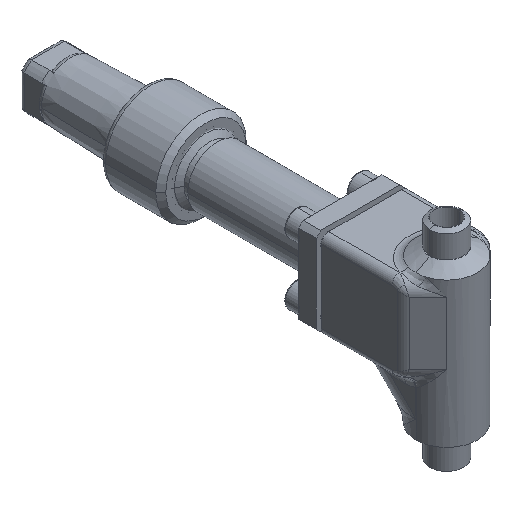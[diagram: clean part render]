
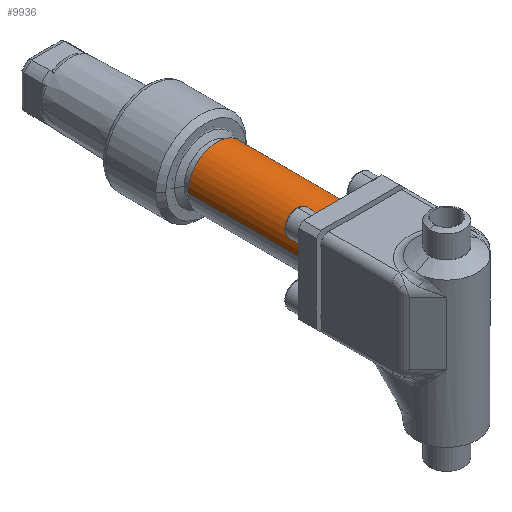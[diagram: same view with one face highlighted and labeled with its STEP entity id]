
A CAD part, isometric view. The second image highlights one B-rep face of the part: STEP entity #9936.
In plain terms, the highlighted cylindrical face has radius 11.75 mm (diameter 23.5 mm), a partial arc.
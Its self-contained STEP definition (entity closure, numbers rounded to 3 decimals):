
#16897 = LINE ( 'NONE', #16898, #16899 ) ;
#16898 = CARTESIAN_POINT ( 'NONE',  ( 11.75, 0., -57. ) ) ;
#16899 = VECTOR ( 'NONE', #16900, 1000. ) ;
#16900 = DIRECTION ( 'NONE',  ( 0., 0., 1. ) ) ;
#17016 = CARTESIAN_POINT ( 'NONE',  ( -11.75, 0., -7.2 ) ) ;
#800 = CARTESIAN_POINT ( 'NONE',  ( 11.75, 0., -57. ) ) ;
#825 = CIRCLE ( 'NONE', #826, 11.75 ) ;
#826 = AXIS2_PLACEMENT_3D ( 'NONE', #829, #830, #831 ) ;
#827 = EDGE_CURVE ( 'NONE', #2793, #9311, #14996, .T. ) ;
#829 = CARTESIAN_POINT ( 'NONE',  ( 0., 0., -57. ) ) ;
#830 = DIRECTION ( 'NONE',  ( 0., 0., -1. ) ) ;
#831 = DIRECTION ( 'NONE',  ( -1., 0., 0. ) ) ;
#1073 = EDGE_LOOP ( 'NONE', ( #3114, #2197, #11641, #13149 ) ) ;
#1367 = CARTESIAN_POINT ( 'NONE',  ( -11.75, 0., -57. ) ) ;
#1838 = EDGE_CURVE ( 'NONE', #11980, #2793, #15620, .T. ) ;
#2197 = ORIENTED_EDGE ( 'NONE', *, *, #1838, .T. ) ;
#2568 = EDGE_CURVE ( 'NONE', #11962, #9311, #16897, .T. ) ;
#2793 = VERTEX_POINT ( 'NONE', #17016 ) ;
#3114 = ORIENTED_EDGE ( 'NONE', *, *, #11966, .F. ) ;
#9311 = VERTEX_POINT ( 'NONE', #13078 ) ;
#9936 = ADVANCED_FACE ( 'NONE', ( #14886 ), #14903, .T. ) ;
#11641 = ORIENTED_EDGE ( 'NONE', *, *, #827, .T. ) ;
#11962 = VERTEX_POINT ( 'NONE', #800 ) ;
#11966 = EDGE_CURVE ( 'NONE', #11980, #11962, #825, .T. ) ;
#11980 = VERTEX_POINT ( 'NONE', #1367 ) ;
#13078 = CARTESIAN_POINT ( 'NONE',  ( 11.75, 0., -7.2 ) ) ;
#13149 = ORIENTED_EDGE ( 'NONE', *, *, #2568, .F. ) ;
#14886 = FACE_OUTER_BOUND ( 'NONE', #1073, .T. ) ;
#14903 = CYLINDRICAL_SURFACE ( 'NONE', #14904, 11.75 ) ;
#14904 = AXIS2_PLACEMENT_3D ( 'NONE', #14905, #14906, #14907 ) ;
#14905 = CARTESIAN_POINT ( 'NONE',  ( 0., 0., -57. ) ) ;
#14906 = DIRECTION ( 'NONE',  ( 0., 0., 1. ) ) ;
#14907 = DIRECTION ( 'NONE',  ( 1., 0., 0. ) ) ;
#14996 = CIRCLE ( 'NONE', #14997, 11.75 ) ;
#14997 = AXIS2_PLACEMENT_3D ( 'NONE', #14998, #14999, #15000 ) ;
#14998 = CARTESIAN_POINT ( 'NONE',  ( 0., 0., -7.2 ) ) ;
#14999 = DIRECTION ( 'NONE',  ( 0., 0., -1. ) ) ;
#15000 = DIRECTION ( 'NONE',  ( 1., 0., 0. ) ) ;
#15620 = LINE ( 'NONE', #15621, #15622 ) ;
#15621 = CARTESIAN_POINT ( 'NONE',  ( -11.75, 0., -57. ) ) ;
#15622 = VECTOR ( 'NONE', #15623, 1000. ) ;
#15623 = DIRECTION ( 'NONE',  ( 0., 0., 1. ) ) ;
